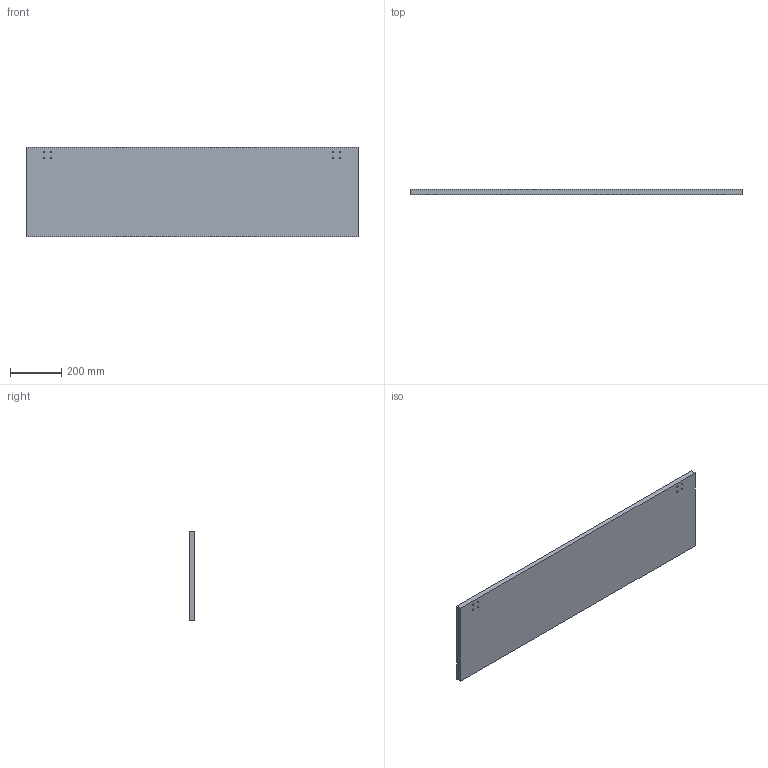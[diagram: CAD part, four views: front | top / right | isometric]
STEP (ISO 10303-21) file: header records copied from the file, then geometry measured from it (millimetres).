
FILE_DESCRIPTION (( 'STEP AP203' ), '1' );
FILE_NAME ('Table_Default_sldprt.STEP', '2020-04-06T12:53:51', ( '' ), ( '' ), 'SwSTEP 2.0', 'SolidWorks 2018', '' );
FILE_SCHEMA (( 'CONFIG_CONTROL_DESIGN' ));
Length unit declared in the file: millimetre
Products named in the file (1): Table_Default_sldprt
Bounding box: 1300 x 20 x 350 mm (x, y, z)
Volume: 9094526.1 mm3; surface area: 978770.1 mm2
Topology: 1 solids, 1 shells, 22 faces, 60 edges, 40 vertices
Faces by surface type: cylinder 16, plane 6
Entity records: 825 total; most frequent: DIRECTION 138, CARTESIAN_POINT 123, ORIENTED_EDGE 120, EDGE_CURVE 60, AXIS2_PLACEMENT_3D 55, VERTEX_POINT 40, EDGE_LOOP 38, CIRCLE 32
